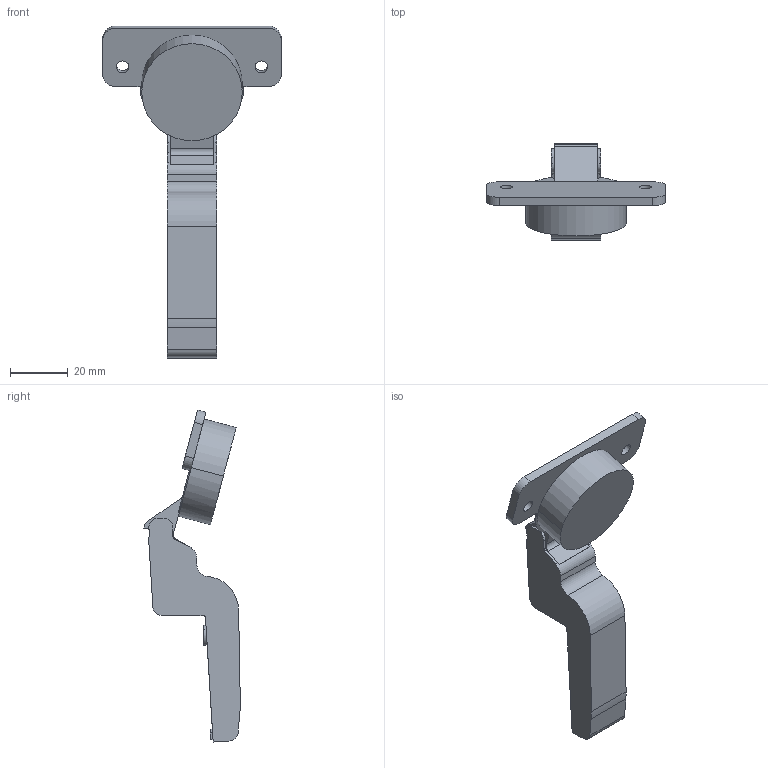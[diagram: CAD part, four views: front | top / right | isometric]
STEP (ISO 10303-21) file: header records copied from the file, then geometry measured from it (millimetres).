
FILE_DESCRIPTION (( 'STEP AP203' ), '1' );
FILE_NAME ('C82C276F-DTC 3D open.STEP', '2024-09-09T06:39:32', ( '微软用户' ), ( '微软中国' ), 'SwSTEP 2.0', 'SolidWorks 2021', '' );
FILE_SCHEMA (( 'CONFIG_CONTROL_DESIGN' ));
Length unit declared in the file: millimetre
Products named in the file (1): C82C276F-DTC 3D open
Bounding box: 61.96 x 33.47 x 115.06 mm (x, y, z)
Volume: 34003.4 mm3; surface area: 10990.8 mm2
Topology: 1 solids, 1 shells, 81 faces, 226 edges, 150 vertices
Faces by surface type: plane 43, cylinder 36, bspline 2
Entity records: 2711 total; most frequent: CARTESIAN_POINT 496, ORIENTED_EDGE 452, DIRECTION 451, EDGE_CURVE 226, AXIS2_PLACEMENT_3D 153, VERTEX_POINT 150, LINE 145, VECTOR 145
